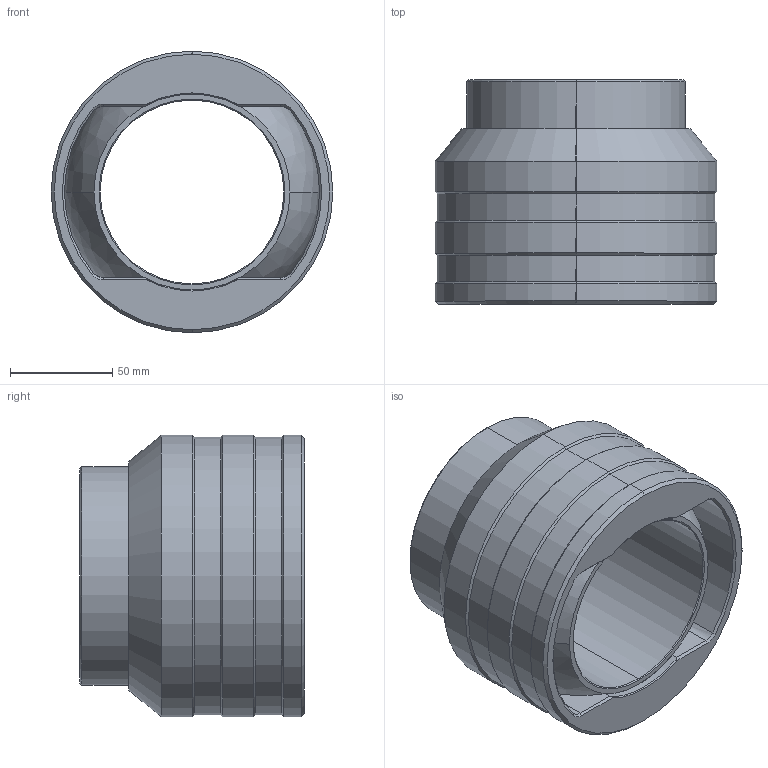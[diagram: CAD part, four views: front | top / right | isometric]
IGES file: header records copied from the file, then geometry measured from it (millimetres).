
Start section: 3D InterOp IGES (Version 20 0 1), Spatial Corp. Copyright (c) 1999-2007.
Global section: file name: 10.11.09.igs; native system: Spatial Corp.; preprocessor: 3D InterOp GENERIC/IGES 3.0; author: Noname; organization: Noname; date: 20111110.164101; units: metre
Bounding box: 138 x 110 x 138 mm (x, y, z)
Surface area: 150610.2 mm2 (no closed solid volume)
Topology: 0 solids, 0 shells, 78 faces, 1345 edges, 2334 vertices
Faces by surface type: revolution 64, extrusion 14
